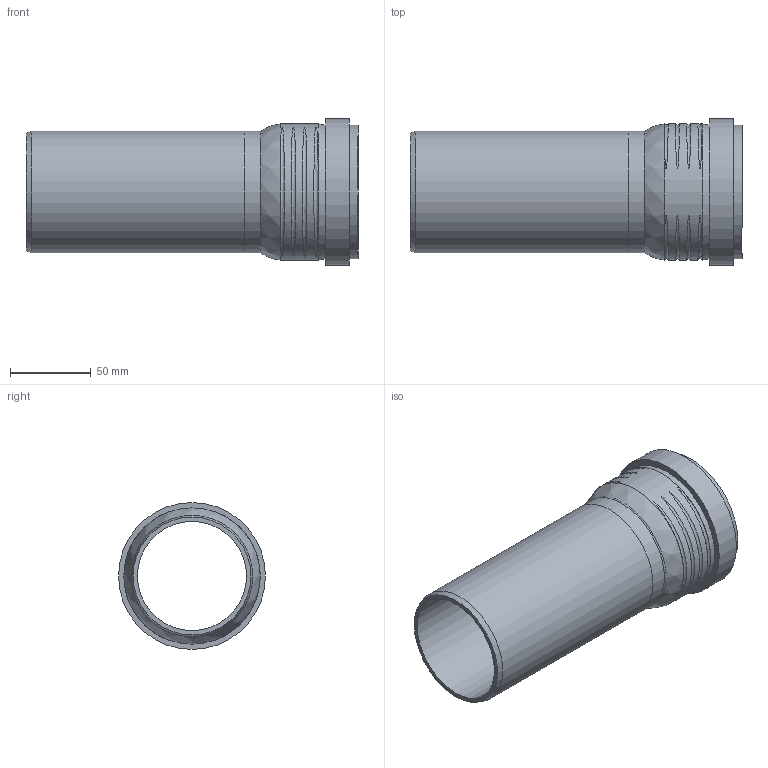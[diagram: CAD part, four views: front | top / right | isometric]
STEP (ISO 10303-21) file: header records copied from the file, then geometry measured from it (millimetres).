
FILE_DESCRIPTION(/* description */ (''),/* implementation_level */ '2;1');
FILE_NAME(/* name */ 'H:\Geberit-Teile\Export\PP_Rohr\stp\393300.stp',/* time_stamp */ '2017-02-13T16:05:53+01:00',/* author */ ('seihe2'),/* organization */ (''),/* preprocessor_version */ 'ST-DEVELOPER v15.2',/* originating_system */ 'Autodesk Inventor 2014',/* authorisation */ '');
FILE_SCHEMA (('AUTOMOTIVE_DESIGN { 1 0 10303 214 3 1 1 }'));
Length unit declared in the file: millimetre
Products named in the file (1): 393300
Bounding box: 205.7 x 91 x 91 mm (x, y, z)
Volume: 192084.9 mm3; surface area: 109415.4 mm2
Topology: 2 solids, 2 shells, 38 faces, 82 edges, 57 vertices
Faces by surface type: torus 16, cylinder 10, plane 8, cone 2, bspline 2
Full cylindrical faces by diameter (mm): 67.6 x2, 75.2 x2, 76 x1, 77.6 x1, 82.8 x1, 84.4 x1, 84.8 x1, 91 x1
Entity records: 2151 total; most frequent: CARTESIAN_POINT 1359, DIRECTION 132, ORIENTED_EDGE 130, EDGE_LOOP 68, AXIS2_PLACEMENT_3D 66, EDGE_CURVE 65, VERTEX_POINT 57, STYLED_ITEM 40
